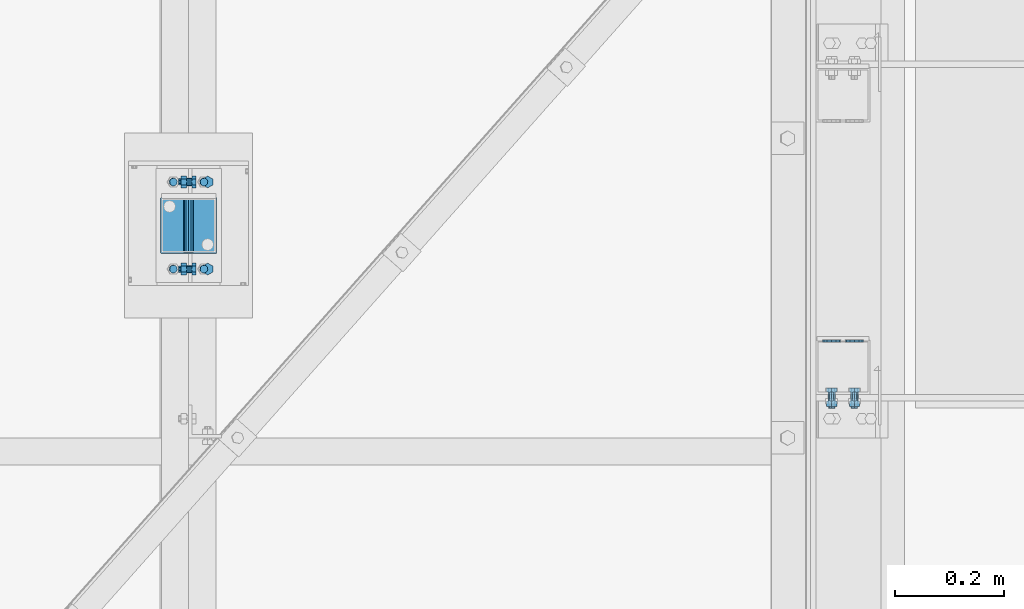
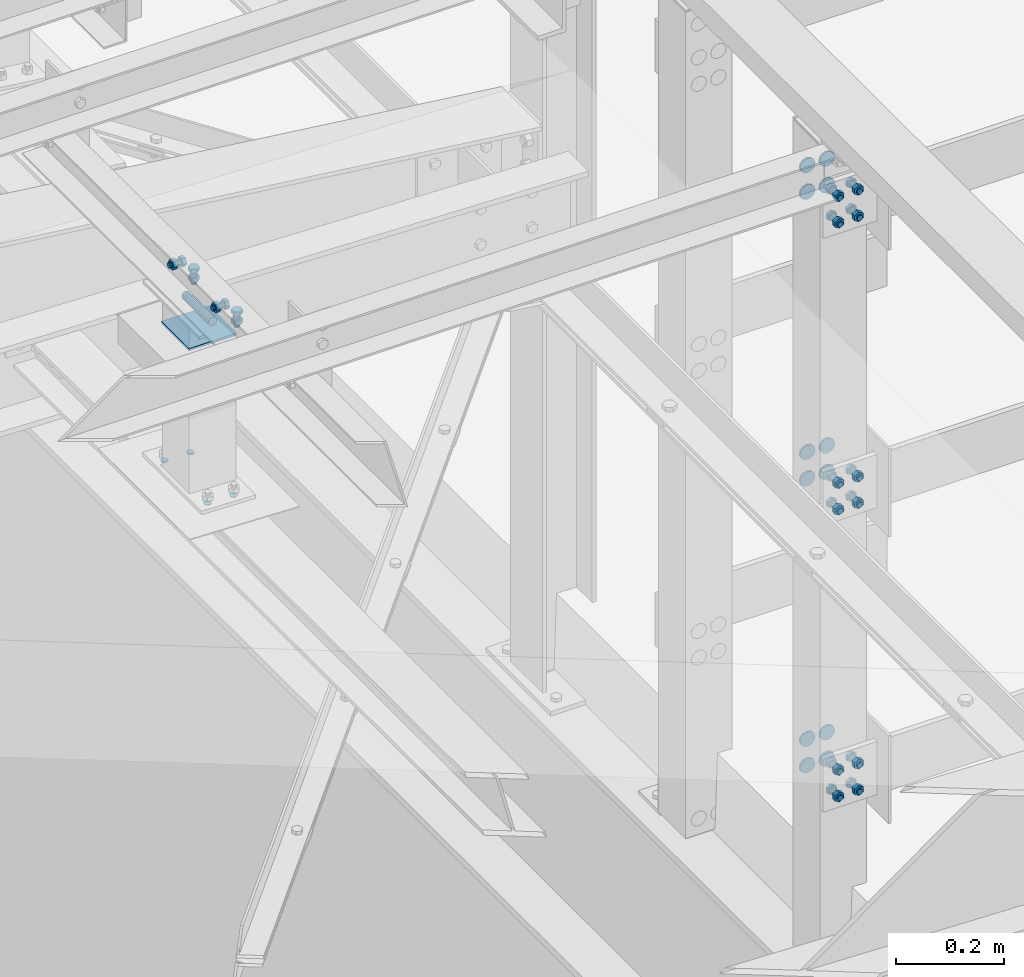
# One storey, part 363 of 3134: 11 mechanical fasteners, 4 elements without a shape of their own.
"""IFC2X3 building model written with IfcOpenShell, lengths in millimetres."""

from ifc_helpers import new_model, si_unit, frame, origin_with_axes, place, context, subcontext, project, spatial, faceted_brep, source, transform, mapped, material, type_object, element, aggregate, save


model = new_model("IFC2X3")

# Units and contexts
model_context = context("Model", 3, precision=1e-05, world=origin_with_axes())
body_context = subcontext(model_context, "Body", "Model", "MODEL_VIEW")
ifc_project = project(units=[si_unit("LENGTHUNIT", "METRE", prefix="MILLI"), si_unit("AREAUNIT", "SQUARE_METRE"), si_unit("VOLUMEUNIT", "CUBIC_METRE"), si_unit("MASSUNIT", "GRAM", prefix="KILO"), si_unit("TIMEUNIT", "SECOND"), si_unit("PLANEANGLEUNIT", "RADIAN"), si_unit("SOLIDANGLEUNIT", "STERADIAN"), si_unit("THERMODYNAMICTEMPERATUREUNIT", "DEGREE_CELSIUS"), si_unit("LUMINOUSINTENSITYUNIT", "LUMEN")], contexts=[model_context])

# Site, building, storey
site_placement = place(None, origin_with_axes())
site = spatial("IfcSite", under=ifc_project, at=site_placement, CompositionType="ELEMENT")
building_placement = place(site_placement, origin_with_axes())
building = spatial("IfcBuilding", under=site, at=building_placement, Name="Undefined", CompositionType="ELEMENT")
storey_placement = place(building_placement, origin_with_axes())
storey = spatial("IfcBuildingStorey", under=building, at=storey_placement, Name="Undefined", CompositionType="ELEMENT", Elevation=0.0)

# Assembly, mechanical fastener
assembly_1_placement = place(storey_placement, origin_with_axes())
assembly_1 = element("IfcElementAssembly", 1, at=assembly_1_placement, inside=storey, AssemblyPlace="NOTDEFINED", PredefinedType="RIGID_FRAME")
ifc_material_1 = material(Name="8.8")
mechanical_fastener_type = type_object("IfcMechanicalFastenerType", Name="Bolt assembly")
shared_shape_1 = source(origin_with_axes(), body_context, "Body", "Brep", [
    faceted_brep([(10.9696551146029, -14.0, 0.0), (5.48482755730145, -14.0, 9.5), (-5.48482755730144, -14.0, 9.5), (-10.9696551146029, -14.0, 1.34339530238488e-15), (-5.48482755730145, -14.0, -9.5), (5.48482755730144, -14.0, -9.50000000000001), (5.48482755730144, -6.0, -9.50000000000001), (-5.48482755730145, -6.0, -9.5), (-10.9696551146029, -6.0, 1.34339530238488e-15), (-5.48482755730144, -6.0, 9.5), (5.48482755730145, -6.0, 9.5), (10.9696551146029, -6.0, 0.0), (6.0, -6.0, 0.0), (5.19615242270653, -6.0, 3.00000000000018), (2.99999999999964, -6.0, 5.19615242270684), (-6.21801588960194e-13, -6.0, 6.0), (-3.00000000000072, -6.0, 5.19615242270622), (-5.19615242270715, -6.0, 2.9999999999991), (-6.0, -6.0, -1.24360317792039e-12), (-5.19615242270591, -6.0, -3.00000000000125), (-2.99999999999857, -6.0, -5.19615242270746), (1.85874342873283e-12, -6.0, -6.0), (3.00000000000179, -6.0, -5.1961524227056), (5.19615242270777, -6.0, -2.99999999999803), (5.19615242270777, 24.0, -2.99999999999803), (3.00000000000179, 24.0, -5.1961524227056), (1.85874342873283e-12, 24.0, -6.0), (-2.99999999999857, 24.0, -5.19615242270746), (-5.19615242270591, 24.0, -3.00000000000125), (-6.0, 24.0, -1.24360317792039e-12), (-5.19615242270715, 24.0, 2.9999999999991), (-3.00000000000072, 24.0, 5.19615242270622), (-6.21801588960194e-13, 24.0, 6.0), (2.99999999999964, 24.0, 5.19615242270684), (5.19615242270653, 24.0, 3.00000000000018), (6.0, 24.0, 0.0), (10.9696551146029, 6.00000000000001, 0.0), (5.48482755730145, 6.00000000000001, 9.5), (-5.48482755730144, 6.00000000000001, 9.5), (-10.9696551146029, 6.00000000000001, 1.34339530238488e-15), (-5.48482755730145, 6.00000000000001, -9.5), (5.48482755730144, 6.00000000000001, -9.50000000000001), (5.48482755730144, 16.0, -9.50000000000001), (-5.48482755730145, 16.0, -9.5), (-10.9696551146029, 16.0, 1.34339530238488e-15), (-5.48482755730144, 16.0, 9.5), (5.48482755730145, 16.0, 9.5), (10.9696551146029, 16.0, 0.0)], [[[0, 1, 2, 3, 4, 5]], [[6, 7, 8, 9, 10, 11]], [[0, 11, 10, 1]], [[1, 10, 9, 2]], [[2, 9, 8, 3]], [[3, 8, 7, 4]], [[4, 7, 6, 5]], [[5, 6, 11, 0]], [[12, 13, 14, 15, 16, 17, 18, 19, 20, 21, 22, 23]], [[24, 25, 26, 27, 28, 29, 30, 31, 32, 33, 34, 35]], [[12, 35, 34, 13]], [[13, 34, 33, 14]], [[14, 33, 32, 15]], [[15, 32, 31, 16]], [[16, 31, 30, 17]], [[17, 30, 29, 18]], [[18, 29, 28, 19]], [[19, 28, 27, 20]], [[20, 27, 26, 21]], [[21, 26, 25, 22]], [[22, 25, 24, 23]], [[23, 24, 35, 12]], [[36, 37, 38, 39, 40, 41]], [[42, 43, 44, 45, 46, 47]], [[36, 47, 46, 37]], [[37, 46, 45, 38]], [[38, 45, 44, 39]], [[39, 44, 43, 40]], [[40, 43, 42, 41]], [[41, 42, 47, 36]]]),
    faceted_brep([(7.0, -5.9, 0.0), (6.06217782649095, -5.9, 3.50000000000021), (3.49999999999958, -5.9, 6.06217782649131), (-7.25435187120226e-13, -5.9, 7.0), (-3.50000000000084, -5.9, 6.06217782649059), (-6.06217782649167, -5.9, 3.49999999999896), (-7.0, -5.9, -1.45087037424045e-12), (-6.06217782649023, -5.9, -3.50000000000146), (-3.49999999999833, -5.9, -6.06217782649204), (2.1685340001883e-12, -5.9, -7.0), (3.50000000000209, -5.9, -6.06217782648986), (6.0621778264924, -5.9, -3.4999999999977), (6.0621778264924, 0.0999999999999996, -3.4999999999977), (3.50000000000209, 0.0999999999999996, -6.06217782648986), (2.1685340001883e-12, 0.0999999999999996, -7.0), (-3.49999999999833, 0.0999999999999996, -6.06217782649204), (-6.06217782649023, 0.0999999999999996, -3.50000000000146), (-7.0, 0.0999999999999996, -1.45087037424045e-12), (-6.06217782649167, 0.0999999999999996, 3.49999999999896), (-3.50000000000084, 0.0999999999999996, 6.06217782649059), (-7.25435187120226e-13, 0.0999999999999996, 7.0), (3.49999999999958, 0.0999999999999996, 6.06217782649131), (6.06217782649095, 0.0999999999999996, 3.50000000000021), (7.0, 0.0999999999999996, 0.0), (7.0, -0.1, 0.0), (6.06217782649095, -0.1, 3.50000000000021), (3.49999999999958, -0.1, 6.06217782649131), (-7.25435187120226e-13, -0.1, 7.0), (-3.50000000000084, -0.1, 6.06217782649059), (-6.06217782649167, -0.1, 3.49999999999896), (-7.0, -0.1, -1.45087037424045e-12), (-6.06217782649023, -0.1, -3.50000000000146), (-3.49999999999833, -0.1, -6.06217782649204), (2.1685340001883e-12, -0.1, -7.0), (3.50000000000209, -0.1, -6.06217782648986), (6.0621778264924, -0.1, -3.4999999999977), (6.0621778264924, 6.00000000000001, -3.4999999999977), (3.50000000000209, 6.00000000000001, -6.06217782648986), (2.1685340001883e-12, 6.00000000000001, -7.0), (-3.49999999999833, 6.00000000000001, -6.06217782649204), (-6.06217782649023, 6.00000000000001, -3.50000000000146), (-7.0, 6.00000000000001, -1.45087037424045e-12), (-6.06217782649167, 6.00000000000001, 3.49999999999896), (-3.50000000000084, 6.00000000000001, 6.06217782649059), (-7.25435187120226e-13, 6.00000000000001, 7.0), (3.49999999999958, 6.00000000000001, 6.06217782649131), (6.06217782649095, 6.00000000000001, 3.50000000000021), (7.0, 6.00000000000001, 0.0)], [[[0, 1, 2, 3, 4, 5, 6, 7, 8, 9, 10, 11]], [[12, 13, 14, 15, 16, 17, 18, 19, 20, 21, 22, 23]], [[0, 23, 22, 1]], [[1, 22, 21, 2]], [[2, 21, 20, 3]], [[3, 20, 19, 4]], [[4, 19, 18, 5]], [[5, 18, 17, 6]], [[6, 17, 16, 7]], [[7, 16, 15, 8]], [[8, 15, 14, 9]], [[9, 14, 13, 10]], [[10, 13, 12, 11]], [[11, 12, 23, 0]], [[24, 25, 26, 27, 28, 29, 30, 31, 32, 33, 34, 35]], [[36, 37, 38, 39, 40, 41, 42, 43, 44, 45, 46, 47]], [[24, 47, 46, 25]], [[25, 46, 45, 26]], [[26, 45, 44, 27]], [[27, 44, 43, 28]], [[28, 43, 42, 29]], [[29, 42, 41, 30]], [[30, 41, 40, 31]], [[31, 40, 39, 32]], [[32, 39, 38, 33]], [[33, 38, 37, 34]], [[34, 37, 36, 35]], [[35, 36, 47, 24]]]),
])
mechanical_fastener_1_placement = place(assembly_1_placement, frame((70635.0, 18580.0, 5750.0), z_axis=(-1.0, 0.0, 0.0), x_axis=(0.0, 1.0, 0.0)))
mechanical_fastener_1 = element("IfcMechanicalFastener", 2, at=mechanical_fastener_1_placement, type_object=mechanical_fastener_type, material=ifc_material_1, Name="Bolt assembly", NominalDiameter=12.0, NominalLength=30.0, context=body_context, shape_type="MappedRepresentation", body=[
    mapped(shared_shape_1, transform((0.0, 0.0, 0.0))),
    mapped(shared_shape_1, transform((160.0, 0.0, 0.0))),
])

assembly_2_placement = place(storey_placement, origin_with_axes())
assembly_2 = element("IfcElementAssembly", 3, at=assembly_2_placement, inside=storey, AssemblyPlace="NOTDEFINED", PredefinedType="RIGID_FRAME")
shared_shape_2 = source(origin_with_axes(), body_context, "Body", "Brep", [
    faceted_brep([(10.9696551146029, -14.0, 0.0), (5.48482755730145, -14.0, 9.5), (-5.48482755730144, -14.0, 9.5), (-10.9696551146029, -14.0, 1.34339530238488e-15), (-5.48482755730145, -14.0, -9.5), (5.48482755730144, -14.0, -9.50000000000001), (5.48482755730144, -6.0, -9.50000000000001), (-5.48482755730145, -6.0, -9.5), (-10.9696551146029, -6.0, 1.34339530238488e-15), (-5.48482755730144, -6.0, 9.5), (5.48482755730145, -6.0, 9.5), (10.9696551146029, -6.0, 0.0), (6.0, -6.0, 0.0), (5.19615242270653, -6.0, 3.00000000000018), (2.99999999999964, -6.0, 5.19615242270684), (-6.21801588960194e-13, -6.0, 6.0), (-3.00000000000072, -6.0, 5.19615242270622), (-5.19615242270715, -6.0, 2.9999999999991), (-6.0, -6.0, -1.24360317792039e-12), (-5.19615242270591, -6.0, -3.00000000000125), (-2.99999999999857, -6.0, -5.19615242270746), (1.85874342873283e-12, -6.0, -6.0), (3.00000000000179, -6.0, -5.1961524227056), (5.19615242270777, -6.0, -2.99999999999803), (5.19615242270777, 19.0, -2.99999999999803), (3.00000000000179, 19.0, -5.1961524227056), (1.85874342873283e-12, 19.0, -6.0), (-2.99999999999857, 19.0, -5.19615242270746), (-5.19615242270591, 19.0, -3.00000000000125), (-6.0, 19.0, -1.24360317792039e-12), (-5.19615242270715, 19.0, 2.9999999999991), (-3.00000000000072, 19.0, 5.19615242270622), (-6.21801588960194e-13, 19.0, 6.0), (2.99999999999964, 19.0, 5.19615242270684), (5.19615242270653, 19.0, 3.00000000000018), (6.0, 19.0, 0.0), (10.9696551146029, 4.00000000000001, 0.0), (5.48482755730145, 4.00000000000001, 9.5), (-5.48482755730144, 4.00000000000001, 9.5), (-10.9696551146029, 4.00000000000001, 1.34339530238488e-15), (-5.48482755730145, 4.00000000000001, -9.5), (5.48482755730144, 4.00000000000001, -9.50000000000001), (5.48482755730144, 14.0, -9.50000000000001), (-5.48482755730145, 14.0, -9.5), (-10.9696551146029, 14.0, 1.34339530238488e-15), (-5.48482755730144, 14.0, 9.5), (5.48482755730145, 14.0, 9.5), (10.9696551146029, 14.0, 0.0)], [[[0, 1, 2, 3, 4, 5]], [[6, 7, 8, 9, 10, 11]], [[0, 11, 10, 1]], [[1, 10, 9, 2]], [[2, 9, 8, 3]], [[3, 8, 7, 4]], [[4, 7, 6, 5]], [[5, 6, 11, 0]], [[12, 13, 14, 15, 16, 17, 18, 19, 20, 21, 22, 23]], [[24, 25, 26, 27, 28, 29, 30, 31, 32, 33, 34, 35]], [[12, 35, 34, 13]], [[13, 34, 33, 14]], [[14, 33, 32, 15]], [[15, 32, 31, 16]], [[16, 31, 30, 17]], [[17, 30, 29, 18]], [[18, 29, 28, 19]], [[19, 28, 27, 20]], [[20, 27, 26, 21]], [[21, 26, 25, 22]], [[22, 25, 24, 23]], [[23, 24, 35, 12]], [[36, 37, 38, 39, 40, 41]], [[42, 43, 44, 45, 46, 47]], [[36, 47, 46, 37]], [[37, 46, 45, 38]], [[38, 45, 44, 39]], [[39, 44, 43, 40]], [[40, 43, 42, 41]], [[41, 42, 47, 36]]]),
    faceted_brep([(7.0, -0.1, 0.0), (6.06217782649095, -0.1, 3.50000000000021), (3.49999999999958, -0.1, 6.06217782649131), (-7.25435187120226e-13, -0.1, 7.0), (-3.50000000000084, -0.1, 6.06217782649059), (-6.06217782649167, -0.1, 3.49999999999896), (-7.0, -0.1, -1.45087037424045e-12), (-6.06217782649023, -0.1, -3.50000000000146), (-3.49999999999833, -0.1, -6.06217782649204), (2.1685340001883e-12, -0.1, -7.0), (3.50000000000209, -0.1, -6.06217782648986), (6.0621778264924, -0.1, -3.4999999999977), (6.0621778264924, 4.00000000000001, -3.4999999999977), (3.50000000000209, 4.00000000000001, -6.06217782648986), (2.1685340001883e-12, 4.00000000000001, -7.0), (-3.49999999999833, 4.00000000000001, -6.06217782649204), (-6.06217782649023, 4.00000000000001, -3.50000000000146), (-7.0, 4.00000000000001, -1.45087037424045e-12), (-6.06217782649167, 4.00000000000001, 3.49999999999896), (-3.50000000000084, 4.00000000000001, 6.06217782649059), (-7.25435187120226e-13, 4.00000000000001, 7.0), (3.49999999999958, 4.00000000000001, 6.06217782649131), (6.06217782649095, 4.00000000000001, 3.50000000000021), (7.0, 4.00000000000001, 0.0), (7.0, -5.9, 0.0), (6.06217782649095, -5.9, 3.50000000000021), (3.49999999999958, -5.9, 6.06217782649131), (-7.25435187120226e-13, -5.9, 7.0), (-3.50000000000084, -5.9, 6.06217782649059), (-6.06217782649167, -5.9, 3.49999999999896), (-7.0, -5.9, -1.45087037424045e-12), (-6.06217782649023, -5.9, -3.50000000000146), (-3.49999999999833, -5.9, -6.06217782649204), (2.1685340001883e-12, -5.9, -7.0), (3.50000000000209, -5.9, -6.06217782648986), (6.0621778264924, -5.9, -3.4999999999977), (6.0621778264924, 0.0999999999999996, -3.4999999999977), (3.50000000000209, 0.0999999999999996, -6.06217782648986), (2.1685340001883e-12, 0.0999999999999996, -7.0), (-3.49999999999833, 0.0999999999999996, -6.06217782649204), (-6.06217782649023, 0.0999999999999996, -3.50000000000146), (-7.0, 0.0999999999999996, -1.45087037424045e-12), (-6.06217782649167, 0.0999999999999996, 3.49999999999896), (-3.50000000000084, 0.0999999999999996, 6.06217782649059), (-7.25435187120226e-13, 0.0999999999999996, 7.0), (3.49999999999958, 0.0999999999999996, 6.06217782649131), (6.06217782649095, 0.0999999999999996, 3.50000000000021), (7.0, 0.0999999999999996, 0.0)], [[[0, 1, 2, 3, 4, 5, 6, 7, 8, 9, 10, 11]], [[12, 13, 14, 15, 16, 17, 18, 19, 20, 21, 22, 23]], [[0, 23, 22, 1]], [[1, 22, 21, 2]], [[2, 21, 20, 3]], [[3, 20, 19, 4]], [[4, 19, 18, 5]], [[5, 18, 17, 6]], [[6, 17, 16, 7]], [[7, 16, 15, 8]], [[8, 15, 14, 9]], [[9, 14, 13, 10]], [[10, 13, 12, 11]], [[11, 12, 23, 0]], [[24, 25, 26, 27, 28, 29, 30, 31, 32, 33, 34, 35]], [[36, 37, 38, 39, 40, 41, 42, 43, 44, 45, 46, 47]], [[24, 47, 46, 25]], [[25, 46, 45, 26]], [[26, 45, 44, 27]], [[27, 44, 43, 28]], [[28, 43, 42, 29]], [[29, 42, 41, 30]], [[30, 41, 40, 31]], [[31, 40, 39, 32]], [[32, 39, 38, 33]], [[33, 38, 37, 34]], [[34, 37, 36, 35]], [[35, 36, 47, 24]]]),
])
mechanical_fastener_2_placement = place(assembly_2_placement, frame((70600.0, 18580.0, 5785.0), z_axis=(0.0, 0.0, 1.0), x_axis=(0.0, 1.0, 0.0)))
mechanical_fastener_2 = element("IfcMechanicalFastener", 4, at=mechanical_fastener_2_placement, type_object=mechanical_fastener_type, material=ifc_material_1, Name="Bolt assembly", NominalDiameter=12.0, NominalLength=25.0, context=body_context, shape_type="MappedRepresentation", body=[
    mapped(shared_shape_2, transform((0.0, 0.0, 0.0))),
    mapped(shared_shape_2, transform((160.0, 0.0, 0.0))),
])
aggregate(assembly_2, [mechanical_fastener_2])

# Assembly, mechanical fasteners
assembly_3_placement = place(storey_placement, origin_with_axes())
assembly_3 = element("IfcElementAssembly", 5, at=assembly_3_placement, inside=storey, AssemblyPlace="NOTDEFINED", PredefinedType="RIGID_FRAME")
shared_shape_3 = source(origin_with_axes(), body_context, "Body", "Brep", [
    faceted_brep([(16.5, 0.0, 0.0), (14.289419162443, 0.0, 8.25000000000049), (8.24999999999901, 0.0, 14.2894191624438), (-1.70995436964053e-12, 0.0, 16.5), (-8.25000000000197, 0.0, 14.2894191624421), (-14.2894191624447, 0.0, 8.24999999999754), (-16.5, 0.0, -3.41990873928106e-12), (-14.2894191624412, 0.0, -8.25000000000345), (-8.24999999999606, 0.0, -14.2894191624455), (5.11154442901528e-12, 0.0, -16.5), (8.25000000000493, 0.0, -14.2894191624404), (14.2894191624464, 0.0, -8.24999999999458), (14.2894191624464, 4.1, -8.24999999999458), (8.25000000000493, 4.1, -14.2894191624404), (5.11154442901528e-12, 4.1, -16.5), (-8.24999999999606, 4.1, -14.2894191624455), (-14.2894191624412, 4.1, -8.25000000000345), (-16.5, 4.1, -3.41990873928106e-12), (-14.2894191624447, 4.1, 8.24999999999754), (-8.25000000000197, 4.1, 14.2894191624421), (-1.70995436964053e-12, 4.1, 16.5), (8.24999999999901, 4.1, 14.2894191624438), (14.289419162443, 4.1, 8.25000000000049), (16.5, 4.1, 0.0)], [[[0, 1, 2, 3, 4, 5, 6, 7, 8, 9, 10, 11]], [[12, 13, 14, 15, 16, 17, 18, 19, 20, 21, 22, 23]], [[0, 23, 22, 1]], [[1, 22, 21, 2]], [[2, 21, 20, 3]], [[3, 20, 19, 4]], [[4, 19, 18, 5]], [[5, 18, 17, 6]], [[6, 17, 16, 7]], [[7, 16, 15, 8]], [[8, 15, 14, 9]], [[9, 14, 13, 10]], [[10, 13, 12, 11]], [[11, 12, 23, 0]]]),
])
mechanical_fastener_3_placement = place(assembly_3_placement, frame((71802.0, 18450.0, 5119.91), z_axis=(-1.0, 0.0, 0.0), x_axis=(0.0, 0.0, -1.0)))
mechanical_fastener_3 = element("IfcMechanicalFastener", 6, at=mechanical_fastener_3_placement, type_object=mechanical_fastener_type, material=ifc_material_1, Name="Bolt assembly", NominalDiameter=30.0, NominalLength=4.0, context=body_context, shape_type="MappedRepresentation", body=[
    mapped(shared_shape_3, transform((0.0, 0.0, -21.0))),
    mapped(shared_shape_3, transform((60.0, 0.0, -21.0))),
    mapped(shared_shape_3, transform((0.0, 0.0, 21.0))),
    mapped(shared_shape_3, transform((60.0, 0.0, 21.0))),
])
mechanical_fastener_4_placement = place(assembly_3_placement, frame((71802.0, 18450.0, 5770.0), z_axis=(-1.0, 0.0, 0.0), x_axis=(0.0, 0.0, -1.0)))
mechanical_fastener_4 = element("IfcMechanicalFastener", 7, at=mechanical_fastener_4_placement, type_object=mechanical_fastener_type, material=ifc_material_1, Name="Bolt assembly", NominalDiameter=30.0, NominalLength=4.0, context=body_context, shape_type="MappedRepresentation", body=[
    mapped(shared_shape_3, transform((0.0, 0.0, -21.0))),
    mapped(shared_shape_3, transform((60.0, 0.0, -21.0))),
    mapped(shared_shape_3, transform((0.0, 0.0, 21.0))),
    mapped(shared_shape_3, transform((60.0, 0.0, 21.0))),
])
mechanical_fastener_5_placement = place(assembly_3_placement, frame((71802.0, 18450.0, 4469.82), z_axis=(-1.0, 0.0, 0.0), x_axis=(0.0, 0.0, -1.0)))
mechanical_fastener_5 = element("IfcMechanicalFastener", 8, at=mechanical_fastener_5_placement, type_object=mechanical_fastener_type, material=ifc_material_1, Name="Bolt assembly", NominalDiameter=30.0, NominalLength=4.0, context=body_context, shape_type="MappedRepresentation", body=[
    mapped(shared_shape_3, transform((0.0, 0.0, -21.0))),
    mapped(shared_shape_3, transform((60.0, 0.0, -21.0))),
    mapped(shared_shape_3, transform((0.0, 0.0, 21.0))),
    mapped(shared_shape_3, transform((60.0, 0.0, 21.0))),
])
shared_shape_4 = source(origin_with_axes(), body_context, "Body", "Brep", [
    faceted_brep([(10.9696551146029, -12.0, 0.0), (5.48482755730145, -12.0, 9.5), (-5.48482755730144, -12.0, 9.5), (-10.9696551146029, -12.0, 1.34339530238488e-15), (-5.48482755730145, -12.0, -9.5), (5.48482755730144, -12.0, -9.50000000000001), (5.48482755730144, -4.0, -9.50000000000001), (-5.48482755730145, -4.0, -9.5), (-10.9696551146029, -4.0, 1.34339530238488e-15), (-5.48482755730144, -4.0, 9.5), (5.48482755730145, -4.0, 9.5), (10.9696551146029, -4.0, 0.0), (6.0, -4.0, 0.0), (5.19615242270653, -4.0, 3.00000000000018), (2.99999999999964, -4.0, 5.19615242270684), (-6.21801588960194e-13, -4.0, 6.0), (-3.00000000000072, -4.0, 5.19615242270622), (-5.19615242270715, -4.0, 2.9999999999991), (-6.0, -4.0, -1.24360317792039e-12), (-5.19615242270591, -4.0, -3.00000000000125), (-2.99999999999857, -4.0, -5.19615242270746), (1.85874342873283e-12, -4.0, -6.0), (3.00000000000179, -4.0, -5.1961524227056), (5.19615242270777, -4.0, -2.99999999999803), (5.19615242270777, 26.0, -2.99999999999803), (3.00000000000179, 26.0, -5.1961524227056), (1.85874342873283e-12, 26.0, -6.0), (-2.99999999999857, 26.0, -5.19615242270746), (-5.19615242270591, 26.0, -3.00000000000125), (-6.0, 26.0, -1.24360317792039e-12), (-5.19615242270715, 26.0, 2.9999999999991), (-3.00000000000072, 26.0, 5.19615242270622), (-6.21801588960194e-13, 26.0, 6.0), (2.99999999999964, 26.0, 5.19615242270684), (5.19615242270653, 26.0, 3.00000000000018), (6.0, 26.0, 0.0), (10.9696551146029, 12.0, 0.0), (5.48482755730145, 12.0, 9.5), (-5.48482755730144, 12.0, 9.5), (-10.9696551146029, 12.0, 1.34339530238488e-15), (-5.48482755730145, 12.0, -9.5), (5.48482755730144, 12.0, -9.50000000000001), (5.48482755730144, 22.0, -9.50000000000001), (-5.48482755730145, 22.0, -9.5), (-10.9696551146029, 22.0, 1.34339530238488e-15), (-5.48482755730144, 22.0, 9.5), (5.48482755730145, 22.0, 9.5), (10.9696551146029, 22.0, 0.0)], [[[0, 1, 2, 3, 4, 5]], [[6, 7, 8, 9, 10, 11]], [[0, 11, 10, 1]], [[1, 10, 9, 2]], [[2, 9, 8, 3]], [[3, 8, 7, 4]], [[4, 7, 6, 5]], [[5, 6, 11, 0]], [[12, 13, 14, 15, 16, 17, 18, 19, 20, 21, 22, 23]], [[24, 25, 26, 27, 28, 29, 30, 31, 32, 33, 34, 35]], [[12, 35, 34, 13]], [[13, 34, 33, 14]], [[14, 33, 32, 15]], [[15, 32, 31, 16]], [[16, 31, 30, 17]], [[17, 30, 29, 18]], [[18, 29, 28, 19]], [[19, 28, 27, 20]], [[20, 27, 26, 21]], [[21, 26, 25, 22]], [[22, 25, 24, 23]], [[23, 24, 35, 12]], [[36, 37, 38, 39, 40, 41]], [[42, 43, 44, 45, 46, 47]], [[36, 47, 46, 37]], [[37, 46, 45, 38]], [[38, 45, 44, 39]], [[39, 44, 43, 40]], [[40, 43, 42, 41]], [[41, 42, 47, 36]]]),
    faceted_brep([(7.0, -0.1, 0.0), (6.06217782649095, -0.1, 3.50000000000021), (3.49999999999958, -0.1, 6.06217782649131), (-7.25435187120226e-13, -0.1, 7.0), (-3.50000000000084, -0.1, 6.06217782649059), (-6.06217782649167, -0.1, 3.49999999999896), (-7.0, -0.1, -1.45087037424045e-12), (-6.06217782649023, -0.1, -3.50000000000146), (-3.49999999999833, -0.1, -6.06217782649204), (2.1685340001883e-12, -0.1, -7.0), (3.50000000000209, -0.1, -6.06217782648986), (6.0621778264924, -0.1, -3.4999999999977), (6.0621778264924, 12.0, -3.4999999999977), (3.50000000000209, 12.0, -6.06217782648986), (2.1685340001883e-12, 12.0, -7.0), (-3.49999999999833, 12.0, -6.06217782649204), (-6.06217782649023, 12.0, -3.50000000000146), (-7.0, 12.0, -1.45087037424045e-12), (-6.06217782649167, 12.0, 3.49999999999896), (-3.50000000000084, 12.0, 6.06217782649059), (-7.25435187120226e-13, 12.0, 7.0), (3.49999999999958, 12.0, 6.06217782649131), (6.06217782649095, 12.0, 3.50000000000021), (7.0, 12.0, 0.0), (7.0, -3.9, 0.0), (6.06217782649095, -3.9, 3.50000000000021), (3.49999999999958, -3.9, 6.06217782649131), (-7.25435187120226e-13, -3.9, 7.0), (-3.50000000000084, -3.9, 6.06217782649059), (-6.06217782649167, -3.9, 3.49999999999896), (-7.0, -3.9, -1.45087037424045e-12), (-6.06217782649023, -3.9, -3.50000000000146), (-3.49999999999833, -3.9, -6.06217782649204), (2.1685340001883e-12, -3.9, -7.0), (3.50000000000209, -3.9, -6.06217782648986), (6.0621778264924, -3.9, -3.4999999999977), (6.0621778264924, 0.0999999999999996, -3.4999999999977), (3.50000000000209, 0.0999999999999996, -6.06217782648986), (2.1685340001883e-12, 0.0999999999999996, -7.0), (-3.49999999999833, 0.0999999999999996, -6.06217782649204), (-6.06217782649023, 0.0999999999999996, -3.50000000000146), (-7.0, 0.0999999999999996, -1.45087037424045e-12), (-6.06217782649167, 0.0999999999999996, 3.49999999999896), (-3.50000000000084, 0.0999999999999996, 6.06217782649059), (-7.25435187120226e-13, 0.0999999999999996, 7.0), (3.49999999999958, 0.0999999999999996, 6.06217782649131), (6.06217782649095, 0.0999999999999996, 3.50000000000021), (7.0, 0.0999999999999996, 0.0)], [[[0, 1, 2, 3, 4, 5, 6, 7, 8, 9, 10, 11]], [[12, 13, 14, 15, 16, 17, 18, 19, 20, 21, 22, 23]], [[0, 23, 22, 1]], [[1, 22, 21, 2]], [[2, 21, 20, 3]], [[3, 20, 19, 4]], [[4, 19, 18, 5]], [[5, 18, 17, 6]], [[6, 17, 16, 7]], [[7, 16, 15, 8]], [[8, 15, 14, 9]], [[9, 14, 13, 10]], [[10, 13, 12, 11]], [[11, 12, 23, 0]], [[24, 25, 26, 27, 28, 29, 30, 31, 32, 33, 34, 35]], [[36, 37, 38, 39, 40, 41, 42, 43, 44, 45, 46, 47]], [[24, 47, 46, 25]], [[25, 46, 45, 26]], [[26, 45, 44, 27]], [[27, 44, 43, 28]], [[28, 43, 42, 29]], [[29, 42, 41, 30]], [[30, 41, 40, 31]], [[31, 40, 39, 32]], [[32, 39, 38, 33]], [[33, 38, 37, 34]], [[34, 37, 36, 35]], [[35, 36, 47, 24]]]),
])
mechanical_fastener_6_placement = place(assembly_3_placement, frame((71802.0, 18350.0, 5119.91), z_axis=(-1.0, 0.0, 0.0), x_axis=(0.0, 0.0, -1.0)))
mechanical_fastener_6 = element("IfcMechanicalFastener", 9, at=mechanical_fastener_6_placement, type_object=mechanical_fastener_type, material=ifc_material_1, Name="Bolt assembly", NominalDiameter=12.0, NominalLength=30.0, context=body_context, shape_type="MappedRepresentation", body=[
    mapped(shared_shape_4, transform((0.0, 0.0, -21.0))),
    mapped(shared_shape_4, transform((60.0, 0.0, -21.0))),
    mapped(shared_shape_4, transform((0.0, 0.0, 21.0))),
    mapped(shared_shape_4, transform((60.0, 0.0, 21.0))),
])
mechanical_fastener_7_placement = place(assembly_3_placement, frame((71802.0, 18350.0, 4469.82), z_axis=(-1.0, 0.0, 0.0), x_axis=(0.0, 0.0, -1.0)))
mechanical_fastener_7 = element("IfcMechanicalFastener", 10, at=mechanical_fastener_7_placement, type_object=mechanical_fastener_type, material=ifc_material_1, Name="Bolt assembly", NominalDiameter=12.0, NominalLength=30.0, context=body_context, shape_type="MappedRepresentation", body=[
    mapped(shared_shape_4, transform((0.0, 0.0, -21.0))),
    mapped(shared_shape_4, transform((60.0, 0.0, -21.0))),
    mapped(shared_shape_4, transform((0.0, 0.0, 21.0))),
    mapped(shared_shape_4, transform((60.0, 0.0, 21.0))),
])
mechanical_fastener_8_placement = place(assembly_3_placement, frame((71802.0, 18350.0, 5770.0), z_axis=(-1.0, 0.0, 0.0), x_axis=(0.0, 0.0, -1.0)))
mechanical_fastener_8 = element("IfcMechanicalFastener", 11, at=mechanical_fastener_8_placement, type_object=mechanical_fastener_type, material=ifc_material_1, Name="Bolt assembly", NominalDiameter=12.0, NominalLength=30.0, context=body_context, shape_type="MappedRepresentation", body=[
    mapped(shared_shape_4, transform((0.0, 0.0, -21.0))),
    mapped(shared_shape_4, transform((60.0, 0.0, -21.0))),
    mapped(shared_shape_4, transform((0.0, 0.0, 21.0))),
    mapped(shared_shape_4, transform((60.0, 0.0, 21.0))),
])
aggregate(assembly_3, [mechanical_fastener_3, mechanical_fastener_6, mechanical_fastener_4, mechanical_fastener_5, mechanical_fastener_7, mechanical_fastener_8])

# Assembly, mechanical fastener
assembly_4_placement = place(storey_placement, origin_with_axes())
assembly_4 = element("IfcElementAssembly", 12, at=assembly_4_placement, inside=storey, AssemblyPlace="NOTDEFINED", PredefinedType="RIGID_FRAME")
shared_shape_5 = source(origin_with_axes(), body_context, "Body", "Brep", [
    faceted_brep([(7.0, 13.0000253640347, 0.0), (6.06217782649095, 13.0000253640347, 3.50000000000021), (3.49999999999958, 13.0000253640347, 6.06217782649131), (-7.25435187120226e-13, 13.0000253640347, 7.0), (-3.50000000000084, 13.0000253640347, 6.06217782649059), (-6.06217782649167, 13.0000253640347, 3.49999999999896), (-7.0, 13.0000253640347, -1.45087037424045e-12), (-6.06217782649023, 13.0000253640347, -3.50000000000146), (-3.49999999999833, 13.0000253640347, -6.06217782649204), (2.1685340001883e-12, 13.0000253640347, -7.0), (3.50000000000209, 13.0000253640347, -6.06217782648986), (6.0621778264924, 13.0000253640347, -3.4999999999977), (6.0621778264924, 15.0999999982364, -3.4999999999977), (3.50000000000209, 15.0999999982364, -6.06217782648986), (2.1685340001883e-12, 15.0999999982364, -7.0), (-3.49999999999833, 15.0999999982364, -6.06217782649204), (-6.06217782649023, 15.0999999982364, -3.50000000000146), (-7.0, 15.0999999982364, -1.45087037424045e-12), (-6.06217782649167, 15.0999999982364, 3.49999999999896), (-3.50000000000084, 15.0999999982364, 6.06217782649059), (-7.25435187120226e-13, 15.0999999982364, 7.0), (3.49999999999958, 15.0999999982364, 6.06217782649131), (6.06217782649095, 15.0999999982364, 3.50000000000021), (7.0, 15.0999999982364, 0.0)], [[[0, 1, 2, 3, 4, 5, 6, 7, 8, 9, 10, 11]], [[12, 13, 14, 15, 16, 17, 18, 19, 20, 21, 22, 23]], [[0, 23, 22, 1]], [[1, 22, 21, 2]], [[2, 21, 20, 3]], [[3, 20, 19, 4]], [[4, 19, 18, 5]], [[5, 18, 17, 6]], [[6, 17, 16, 7]], [[7, 16, 15, 8]], [[8, 15, 14, 9]], [[9, 14, 13, 10]], [[10, 13, 12, 11]], [[11, 12, 23, 0]]]),
])
mechanical_fastener_9_placement = place(assembly_4_placement, frame((70571.3602034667, 18659.9983647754, 5333.31493090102), z_axis=(0.0, -1.0, 0.0), x_axis=(0.999519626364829, 0.0, -0.030992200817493)))
mechanical_fastener_9 = element("IfcMechanicalFastener", 13, at=mechanical_fastener_9_placement, type_object=mechanical_fastener_type, material=ifc_material_1, Name="Bolt assembly", NominalDiameter=12.0, NominalLength=2.0, context=body_context, shape_type="MappedRepresentation", body=[
    mapped(shared_shape_5, transform((0.0, -5.32963895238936e-10, -79.9999999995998))),
    mapped(shared_shape_5, transform((55.9999999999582, 4.54747350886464e-13, -80.0))),
    mapped(shared_shape_5, transform((0.0, 5.3114490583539e-10, 79.9999999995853))),
    mapped(shared_shape_5, transform((55.9999999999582, 4.54747350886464e-13, 80.0))),
])
aggregate(assembly_4, [mechanical_fastener_9])

# Mechanical fastener
shared_shape_6 = source(origin_with_axes(), body_context, "Body", "Brep", [
    faceted_brep([(9.0, -50.0, 0.0), (7.79422863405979, -50.0, 4.50000000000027), (4.49999999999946, -50.0, 7.79422863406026), (-9.3270238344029e-13, -50.0, 9.0), (-4.50000000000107, -50.0, 7.79422863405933), (-7.79422863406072, -50.0, 4.49999999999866), (-9.0, -50.0, -1.86540476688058e-12), (-7.79422863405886, -50.0, -4.50000000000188), (-4.49999999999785, -50.0, -7.79422863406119), (2.78811514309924e-12, -50.0, -9.0), (4.50000000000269, -50.0, -7.7942286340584), (7.79422863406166, -50.0, -4.49999999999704), (7.79422863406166, 50.1, -4.49999999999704), (4.50000000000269, 50.1, -7.7942286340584), (2.78811514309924e-12, 50.1, -9.0), (-4.49999999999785, 50.1, -7.79422863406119), (-7.79422863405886, 50.1, -4.50000000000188), (-9.0, 50.1, -1.86540476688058e-12), (-7.79422863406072, 50.1, 4.49999999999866), (-4.50000000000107, 50.1, 7.79422863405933), (-9.3270238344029e-13, 50.1, 9.0), (4.49999999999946, 50.1, 7.79422863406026), (7.79422863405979, 50.1, 4.50000000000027), (9.0, 50.1, 0.0)], [[[0, 1, 2, 3, 4, 5, 6, 7, 8, 9, 10, 11]], [[12, 13, 14, 15, 16, 17, 18, 19, 20, 21, 22, 23]], [[0, 23, 22, 1]], [[1, 22, 21, 2]], [[2, 21, 20, 3]], [[3, 20, 19, 4]], [[4, 19, 18, 5]], [[5, 18, 17, 6]], [[6, 17, 16, 7]], [[7, 16, 15, 8]], [[8, 15, 14, 9]], [[9, 14, 13, 10]], [[10, 13, 12, 11]], [[11, 12, 23, 0]]]),
])
mechanical_fastener_10_placement = place(assembly_1_placement, frame((70600.0, 18660.0, 5730.0), z_axis=(-1.0, 0.0, 0.0), x_axis=(0.0, 0.0, 1.0)))
mechanical_fastener_10 = element("IfcMechanicalFastener", 14, at=mechanical_fastener_10_placement, type_object=mechanical_fastener_type, material=ifc_material_1, Name="Bolt assembly", NominalDiameter=16.0, NominalLength=100.0, context=body_context, shape_type="MappedRepresentation", body=[
    mapped(shared_shape_6, transform((0.0, 0.0, 0.0))),
])

ifc_material_2 = material(Name="6.8")
shared_shape_7 = source(origin_with_axes(), body_context, "Body", "Brep", [
    faceted_brep([(51.5, 1.36424205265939e-12, 50.0), (51.3858192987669, 1.36424205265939e-12, 50.5740251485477), (51.0606601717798, 1.36424205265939e-12, 51.0606601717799), (50.5740251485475, 1.36424205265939e-12, 51.385819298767), (-50.0000000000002, 1.36424205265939e-12, 51.5), (-50.7500000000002, 1.36424205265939e-12, 51.2990381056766), (-51.2990381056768, 1.36424205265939e-12, 50.7499999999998), (-51.5, 1.36424205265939e-12, 49.9999999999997), (-51.5, 1.36424205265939e-12, -50.0000000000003), (-51.2990381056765, 1.36424205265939e-12, -50.7500000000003), (-50.7499999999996, 1.36424205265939e-12, -51.2990381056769), (-49.9999999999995, 1.36424205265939e-12, -51.5), (50.0000000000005, 1.36424205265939e-12, -51.5), (50.7500000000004, 1.36424205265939e-12, -51.2990381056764), (51.2990381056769, 1.36424205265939e-12, -50.7499999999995), (51.5, 1.36424205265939e-12, -49.9999999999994), (51.5, 5.10000000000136, -49.9999999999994), (51.2990381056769, 5.10000000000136, -50.7499999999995), (50.7500000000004, 5.10000000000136, -51.2990381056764), (50.0000000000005, 5.10000000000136, -51.5), (-49.9999999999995, 5.10000000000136, -51.5), (-50.7499999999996, 5.10000000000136, -51.2990381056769), (-51.2990381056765, 5.10000000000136, -50.7500000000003), (-51.5, 5.10000000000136, -50.0000000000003), (-51.5, 5.10000000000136, 49.9999999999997), (-51.2990381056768, 5.10000000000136, 50.7499999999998), (-50.7500000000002, 5.10000000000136, 51.2990381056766), (-50.0000000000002, 5.10000000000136, 51.5), (50.5740251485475, 5.10000000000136, 51.385819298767), (51.0606601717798, 5.10000000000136, 51.0606601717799), (51.3858192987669, 5.10000000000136, 50.5740251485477), (51.5, 5.10000000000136, 50.0)], [[[0, 1, 2, 3, 4, 5, 6, 7, 8, 9, 10, 11, 12, 13, 14, 15]], [[16, 17, 18, 19, 20, 21, 22, 23, 24, 25, 26, 27, 28, 29, 30, 31]], [[0, 31, 30, 1]], [[1, 30, 29, 2]], [[2, 29, 28, 3]], [[3, 28, 27, 4]], [[4, 27, 26, 5]], [[5, 26, 25, 6]], [[6, 25, 24, 7]], [[7, 24, 23, 8]], [[8, 23, 22, 9]], [[9, 22, 21, 10]], [[10, 21, 20, 11]], [[11, 20, 19, 12]], [[12, 19, 18, 13]], [[13, 18, 17, 14]], [[14, 17, 16, 15]], [[15, 16, 31, 0]]]),
])
mechanical_fastener_11_placement = place(assembly_1_placement, frame((70600.0, 18660.0, 5687.16), z_axis=(0.0, -1.0, 0.0), x_axis=(-1.0, 0.0, 0.0)))
mechanical_fastener_11 = element("IfcMechanicalFastener", 15, at=mechanical_fastener_11_placement, type_object=mechanical_fastener_type, material=ifc_material_2, Name="Bolt assembly", NominalDiameter=10.0, NominalLength=5.0, context=body_context, shape_type="MappedRepresentation", body=[
    mapped(shared_shape_7, transform((0.0, 0.0, 0.0))),
])

aggregate(assembly_1, [mechanical_fastener_10, mechanical_fastener_11, mechanical_fastener_1])

save(model, "model.ifc")
